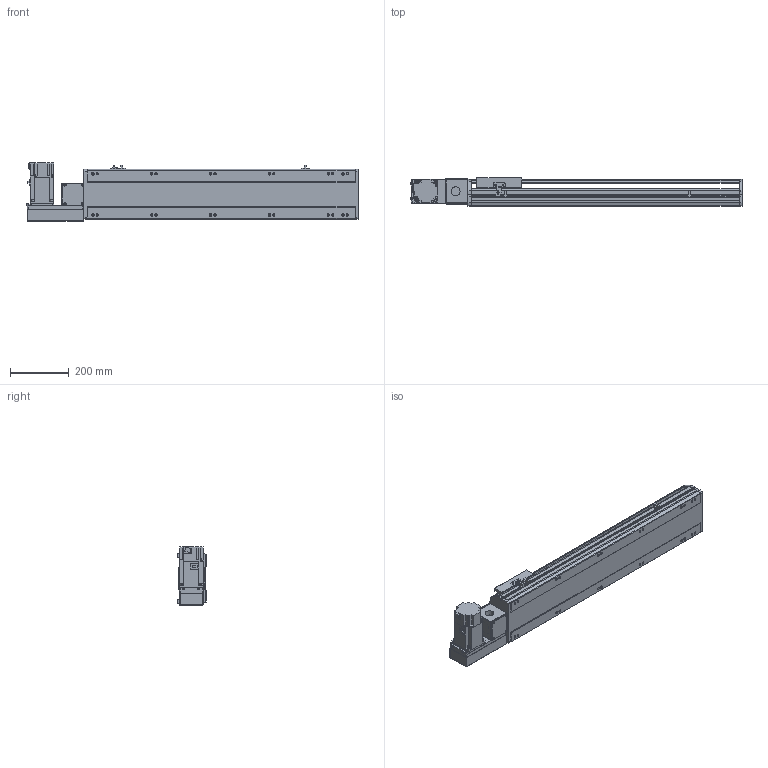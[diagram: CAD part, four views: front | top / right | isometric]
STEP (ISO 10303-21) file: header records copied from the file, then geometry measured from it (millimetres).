
FILE_DESCRIPTION( ( 'STEP AP214' ), '1' );
FILE_NAME( 'x:/temp/worker_2/temp/exporttempdir_1320_60_ZoIXo/format_0/PBS170-P40-S650-L-T75-C1-N(0).stp', '2022-06-07T06:54:25', ( 'License CC BY-ND 4.0' ), ( 'CADENAS' ), ' ', 'PARTsolutions', ' ' );
FILE_SCHEMA( ( 'AUTOMOTIVE_DESIGN { 1 0 10303 214 1 1 1 1 }' ) );
Length unit declared in the file: millimetre
Products named in the file (7): PBS170-P40-S650-L-T75-C1-N(0); _PBS170-S650()_body; _PBS170T-L_motors; _T75-p1; _PBS170_sliser; _PBS170_plant; _PBS170_sensor
Assembly tree (8 placements, depth 2):
  PBS170-P40-S650-L-T75-C1-N(0)
    _PBS170-S650()_body
    _PBS170T-L_motors
    _T75-p1
    _PBS170_sliser
    _PBS170_plant
    _PBS170_sensor  x3
Bounding box: 1128 x 97 x 197.3 mm (x, y, z)
Volume: 8493827.7 mm3; surface area: 1140360.9 mm2
Topology: 8 solids, 8 shells, 1050 faces, 2795 edges, 1822 vertices
Faces by surface type: plane 675, cylinder 323, cone 42, sphere 8, torus 2
Full cylindrical faces by diameter (mm): 3.242 x4, 4 x2, 4.4 x4, 4.5 x6, 4.917 x4, 6 x9, 6.647 x20, 7 x2, 7.5 x4, 8 x8, 8.5 x12, 10 x4, 10.5 x12, 11 x2, 30 x2, 40 x1, 70 x1
Entity records: 38456 total; most frequent: CARTESIAN_POINT 5885, DIRECTION 5160, ORIENTED_EDGE 4908, EDGE_CURVE 2454, AXIS2_PLACEMENT_3D 1777, VERTEX_POINT 1682, LINE 1606, VECTOR 1606
